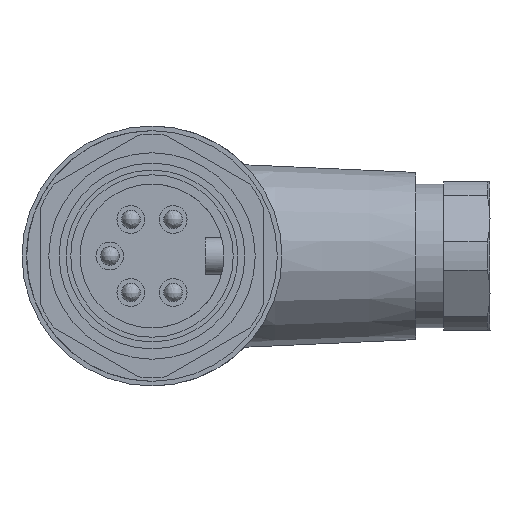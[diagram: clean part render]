
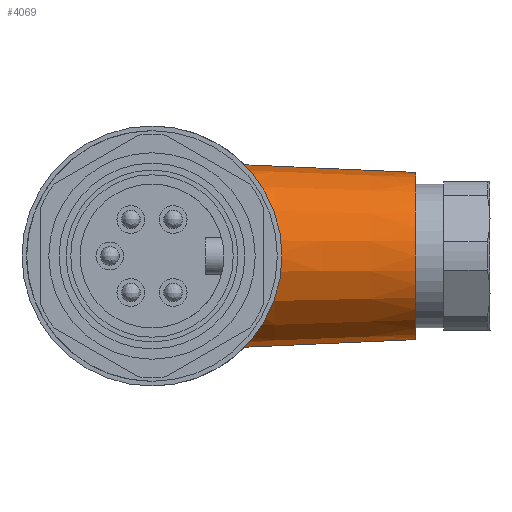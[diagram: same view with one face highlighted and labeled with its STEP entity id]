
A CAD part, front view. The second image highlights one B-rep face of the part: STEP entity #4069.
In plain terms, the highlighted conical face has half-angle 2.556 degrees and reference radius 9.905 mm.
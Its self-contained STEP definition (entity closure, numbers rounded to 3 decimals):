
#618 = LINE ( 'NONE', #921, #621 ) ;
#620 = LINE ( 'NONE', #926, #623 ) ;
#621 = VECTOR ( 'NONE', #903, 1000. ) ;
#623 = VECTOR ( 'NONE', #975, 1000. ) ;
#903 = DIRECTION ( 'NONE',  ( -0.999, 0., 0.045 ) ) ;
#921 = CARTESIAN_POINT ( 'NONE',  ( 8.116, 44., 9.906 ) ) ;
#926 = CARTESIAN_POINT ( 'NONE',  ( 8.116, 44., -9.906 ) ) ;
#975 = DIRECTION ( 'NONE',  ( -0.999, 0., -0.045 ) ) ;
#977 = CARTESIAN_POINT ( 'NONE',  ( 10.934, 37.192, -7.053 ) ) ;
#982 = CARTESIAN_POINT ( 'NONE',  ( 10.619, 37.7, -7.499 ) ) ;
#983 = CARTESIAN_POINT ( 'NONE',  ( 11.239, 36.735, -6.562 ) ) ;
#984 = CARTESIAN_POINT ( 'NONE',  ( 11.664, 36.121, -5.748 ) ) ;
#985 = CARTESIAN_POINT ( 'NONE',  ( 11.8, 35.928, -5.464 ) ) ;
#986 = CARTESIAN_POINT ( 'NONE',  ( 12.059, 35.568, -4.867 ) ) ;
#987 = CARTESIAN_POINT ( 'NONE',  ( 12.18, 35.402, -4.555 ) ) ;
#988 = CARTESIAN_POINT ( 'NONE',  ( 12.511, 34.954, -3.597 ) ) ;
#989 = CARTESIAN_POINT ( 'NONE',  ( 12.689, 34.719, -2.92 ) ) ;
#990 = CARTESIAN_POINT ( 'NONE',  ( 12.936, 34.395, -1.482 ) ) ;
#991 = CARTESIAN_POINT ( 'NONE',  ( 12.999, 34.314, -0.754 ) ) ;
#992 = CARTESIAN_POINT ( 'NONE',  ( 13., 34.312, 0.352 ) ) ;
#993 = CARTESIAN_POINT ( 'NONE',  ( 12.985, 34.332, 0.726 ) ) ;
#994 = CARTESIAN_POINT ( 'NONE',  ( 12.923, 34.413, 1.463 ) ) ;
#995 = CARTESIAN_POINT ( 'NONE',  ( 12.876, 34.473, 1.825 ) ) ;
#996 = CARTESIAN_POINT ( 'NONE',  ( 12.756, 34.632, 2.535 ) ) ;
#997 = CARTESIAN_POINT ( 'NONE',  ( 12.681, 34.73, 2.884 ) ) ;
#998 = CARTESIAN_POINT ( 'NONE',  ( 12.505, 34.963, 3.569 ) ) ;
#999 = CARTESIAN_POINT ( 'NONE',  ( 12.405, 35.097, 3.903 ) ) ;
#1000 = CARTESIAN_POINT ( 'NONE',  ( 12.185, 35.396, 4.543 ) ) ;
#1001 = CARTESIAN_POINT ( 'NONE',  ( 12.065, 35.56, 4.852 ) ) ;
#1002 = CARTESIAN_POINT ( 'NONE',  ( 11.808, 35.918, 5.448 ) ) ;
#1003 = CARTESIAN_POINT ( 'NONE',  ( 11.67, 36.112, 5.736 ) ) ;
#1004 = CARTESIAN_POINT ( 'NONE',  ( 11.241, 36.732, 6.559 ) ) ;
#1005 = CARTESIAN_POINT ( 'NONE',  ( 10.934, 37.191, 7.053 ) ) ;
#1006 = CARTESIAN_POINT ( 'NONE',  ( 10.619, 37.7, 7.499 ) ) ;
#1188 = CARTESIAN_POINT ( 'NONE',  ( 10.619, 37.7, 7.499 ) ) ;
#1201 = CARTESIAN_POINT ( 'NONE',  ( 10.352, 38.116, 7.864 ) ) ;
#1205 = CARTESIAN_POINT ( 'NONE',  ( 10.083, 38.557, 8.189 ) ) ;
#1206 = CARTESIAN_POINT ( 'NONE',  ( 9.562, 39.493, 8.765 ) ) ;
#1207 = CARTESIAN_POINT ( 'NONE',  ( 9.309, 39.989, 9.017 ) ) ;
#1208 = CARTESIAN_POINT ( 'NONE',  ( 8.85, 41.051, 9.44 ) ) ;
#1209 = CARTESIAN_POINT ( 'NONE',  ( 8.65, 41.604, 9.605 ) ) ;
#1210 = CARTESIAN_POINT ( 'NONE',  ( 8.427, 42.478, 9.778 ) ) ;
#1211 = CARTESIAN_POINT ( 'NONE',  ( 8.365, 42.778, 9.823 ) ) ;
#1212 = CARTESIAN_POINT ( 'NONE',  ( 8.275, 43.385, 9.884 ) ) ;
#1213 = CARTESIAN_POINT ( 'NONE',  ( 8.247, 43.691, 9.9 ) ) ;
#1214 = CARTESIAN_POINT ( 'NONE',  ( 8.237, 44., 9.9 ) ) ;
#1909 = DIRECTION ( 'NONE',  ( 0., 0., 1. ) ) ;
#1911 = DIRECTION ( 'NONE',  ( -1., 0., 0. ) ) ;
#1913 = CARTESIAN_POINT ( 'NONE',  ( 8.116, 44., 0. ) ) ;
#2086 = FACE_OUTER_BOUND ( 'NONE', #4336, .T. ) ;
#2100 = CONICAL_SURFACE ( 'NONE', #2250, 9.906, 0.045 ) ;
#2196 = CIRCLE ( 'NONE', #2315, 9. ) ;
#2201 = LINE ( 'NONE', #2653, #2203 ) ;
#2203 = VECTOR ( 'NONE', #2641, 1000. ) ;
#2206 = LINE ( 'NONE', #2655, #2208 ) ;
#2208 = VECTOR ( 'NONE', #2656, 1000. ) ;
#2250 = AXIS2_PLACEMENT_3D ( 'NONE', #1913, #1911, #1909 ) ;
#2315 = AXIS2_PLACEMENT_3D ( 'NONE', #2631, #2632, #2633 ) ;
#2631 = CARTESIAN_POINT ( 'NONE',  ( 28.4, 44., 0. ) ) ;
#2632 = DIRECTION ( 'NONE',  ( -1., 0., 0. ) ) ;
#2633 = DIRECTION ( 'NONE',  ( 0., 0., 1. ) ) ;
#2641 = DIRECTION ( 'NONE',  ( -0.999, 0., 0.045 ) ) ;
#2653 = CARTESIAN_POINT ( 'NONE',  ( 17.2, 44., 9.5 ) ) ;
#2655 = CARTESIAN_POINT ( 'NONE',  ( 17.2, 44., -9.5 ) ) ;
#2656 = DIRECTION ( 'NONE',  ( 0.999, 0., 0.045 ) ) ;
#2688 = CARTESIAN_POINT ( 'NONE',  ( 8.237, 44., -9.9 ) ) ;
#2689 = CARTESIAN_POINT ( 'NONE',  ( 8.257, 43.379, -9.899 ) ) ;
#2704 = CARTESIAN_POINT ( 'NONE',  ( 8.35, 42.781, -9.838 ) ) ;
#2705 = CARTESIAN_POINT ( 'NONE',  ( 8.571, 41.911, -9.667 ) ) ;
#2706 = CARTESIAN_POINT ( 'NONE',  ( 8.659, 41.625, -9.596 ) ) ;
#2707 = CARTESIAN_POINT ( 'NONE',  ( 8.855, 41.064, -9.43 ) ) ;
#2708 = CARTESIAN_POINT ( 'NONE',  ( 8.962, 40.793, -9.336 ) ) ;
#2709 = CARTESIAN_POINT ( 'NONE',  ( 9.302, 40.003, -9.023 ) ) ;
#2710 = CARTESIAN_POINT ( 'NONE',  ( 9.554, 39.507, -8.773 ) ) ;
#2711 = CARTESIAN_POINT ( 'NONE',  ( 10.079, 38.564, -8.194 ) ) ;
#2712 = CARTESIAN_POINT ( 'NONE',  ( 10.351, 38.117, -7.864 ) ) ;
#2713 = CARTESIAN_POINT ( 'NONE',  ( 10.619, 37.7, -7.499 ) ) ;
#2805 = B_SPLINE_CURVE_WITH_KNOTS ( 'NONE', 3,
 ( #2688, #2689, #2704, #2705, #2706, #2707, #2708, #2709, #2710, #2711, #2712, #2713 ),
 .UNSPECIFIED., .F., .F.,
 ( 4, 2, 2, 2, 2, 4 ),
 ( 0., 0.002, 0.003, 0.004, 0.005, 0.007 ),
 .UNSPECIFIED. ) ;
#2856 = VERTEX_POINT ( 'NONE', #3118 ) ;
#2862 = VERTEX_POINT ( 'NONE', #3114 ) ;
#2864 = VERTEX_POINT ( 'NONE', #3115 ) ;
#2877 = VERTEX_POINT ( 'NONE', #3132 ) ;
#2886 = VERTEX_POINT ( 'NONE', #3140 ) ;
#2894 = VERTEX_POINT ( 'NONE', #3147 ) ;
#2895 = VERTEX_POINT ( 'NONE', #3148 ) ;
#3073 = VERTEX_POINT ( 'NONE', #3326 ) ;
#3114 = CARTESIAN_POINT ( 'NONE',  ( 9.976, 44., -9.823 ) ) ;
#3115 = CARTESIAN_POINT ( 'NONE',  ( 10.619, 37.7, -7.499 ) ) ;
#3118 = CARTESIAN_POINT ( 'NONE',  ( 28.4, 44., -9. ) ) ;
#3132 = CARTESIAN_POINT ( 'NONE',  ( 9.976, 44., 9.823 ) ) ;
#3140 = CARTESIAN_POINT ( 'NONE',  ( 8.237, 44., 9.9 ) ) ;
#3147 = CARTESIAN_POINT ( 'NONE',  ( 28.4, 44., 9. ) ) ;
#3148 = CARTESIAN_POINT ( 'NONE',  ( 10.619, 37.7, 7.499 ) ) ;
#3326 = CARTESIAN_POINT ( 'NONE',  ( 8.237, 44., -9.9 ) ) ;
#3488 = EDGE_CURVE ( 'NONE', #2894, #2877, #618, .T. ) ;
#3490 = EDGE_CURVE ( 'NONE', #2856, #2862, #620, .T. ) ;
#3493 = EDGE_CURVE ( 'NONE', #2864, #2895, #3673, .T. ) ;
#3568 = EDGE_CURVE ( 'NONE', #2895, #2886, #3672, .T. ) ;
#3672 = B_SPLINE_CURVE_WITH_KNOTS ( 'NONE', 3,
 ( #1188, #1201, #1205, #1206, #1207, #1208, #1209, #1210, #1211, #1212, #1213, #1214 ),
 .UNSPECIFIED., .F., .F.,
 ( 4, 2, 2, 2, 2, 4 ),
 ( 0., 0.002, 0.004, 0.005, 0.006, 0.007 ),
 .UNSPECIFIED. ) ;
#3673 = B_SPLINE_CURVE_WITH_KNOTS ( 'NONE', 3,
 ( #982, #977, #983, #984, #985, #986, #987, #988, #989, #990, #991, #992, #993, #994, #995, #996, #997, #998, #999, #1000, #1001, #1002, #1003, #1004, #1005, #1006 ),
 .UNSPECIFIED., .F., .F.,
 ( 4, 2, 2, 2, 2, 2, 2, 2, 2, 2, 2, 2, 4 ),
 ( 0., 0.002, 0.003, 0.004, 0.007, 0.009, 0.01, 0.011, 0.012, 0.013, 0.014, 0.015, 0.018 ),
 .UNSPECIFIED. ) ;
#4069 = ADVANCED_FACE ( 'NONE', ( #2086 ), #2100, .T. ) ;
#4160 = EDGE_CURVE ( 'NONE', #2856, #2894, #2196, .T. ) ;
#4166 = EDGE_CURVE ( 'NONE', #2877, #2886, #2201, .T. ) ;
#4169 = EDGE_CURVE ( 'NONE', #3073, #2862, #2206, .T. ) ;
#4176 = EDGE_CURVE ( 'NONE', #3073, #2864, #2805, .T. ) ;
#4336 = EDGE_LOOP ( 'NONE', ( #4472, #4473, #4474, #4475, #4476, #4477, #4478, #4479 ) ) ;
#4472 = ORIENTED_EDGE ( 'NONE', *, *, #3490, .F. ) ;
#4473 = ORIENTED_EDGE ( 'NONE', *, *, #4160, .T. ) ;
#4474 = ORIENTED_EDGE ( 'NONE', *, *, #3488, .T. ) ;
#4475 = ORIENTED_EDGE ( 'NONE', *, *, #4166, .T. ) ;
#4476 = ORIENTED_EDGE ( 'NONE', *, *, #3568, .F. ) ;
#4477 = ORIENTED_EDGE ( 'NONE', *, *, #3493, .F. ) ;
#4478 = ORIENTED_EDGE ( 'NONE', *, *, #4176, .F. ) ;
#4479 = ORIENTED_EDGE ( 'NONE', *, *, #4169, .T. ) ;
